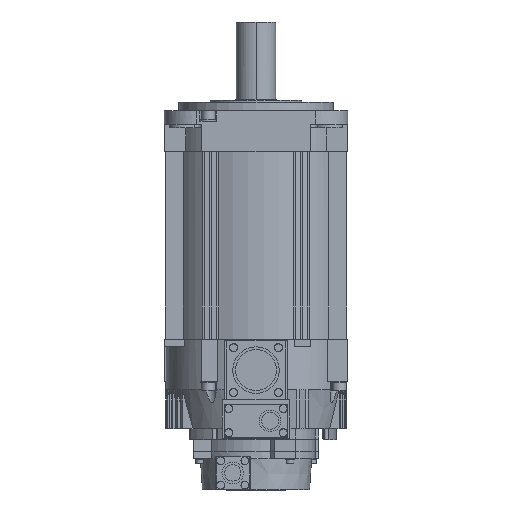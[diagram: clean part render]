
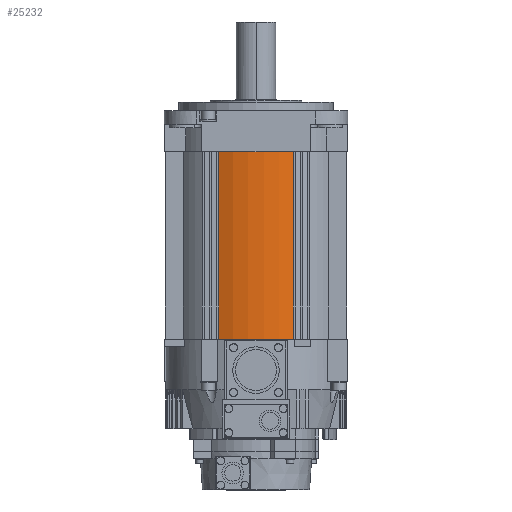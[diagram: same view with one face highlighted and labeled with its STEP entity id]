
A CAD part, front view. The second image highlights one B-rep face of the part: STEP entity #25232.
In plain terms, the highlighted cylindrical face has radius 64.3 mm (diameter 128.6 mm), a partial arc.
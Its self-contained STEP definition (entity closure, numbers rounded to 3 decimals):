
#22118 = CARTESIAN_POINT ( 'NONE',  ( -26.3, -58.675, -29. ) ) ;
#22150 = DIRECTION ( 'NONE',  ( 0., 0., 1. ) ) ;
#22151 = VECTOR ( 'NONE', #22150, 1000. ) ;
#22152 = CARTESIAN_POINT ( 'NONE',  ( -26.3, -58.675, -343.868 ) ) ;
#22153 = LINE ( 'NONE', #22152, #22151 ) ;
#22392 = DIRECTION ( 'NONE',  ( 1., 0., 0. ) ) ;
#22393 = DIRECTION ( 'NONE',  ( 0., 0., 1. ) ) ;
#22394 = CARTESIAN_POINT ( 'NONE',  ( 0., 0., -343.868 ) ) ;
#22395 = AXIS2_PLACEMENT_3D ( 'NONE', #22394, #22393, #22392 ) ;
#22396 = CYLINDRICAL_SURFACE ( 'NONE', #22395, 64.3 ) ;
#22398 = FACE_OUTER_BOUND ( 'NONE', #25111, .T. ) ;
#22840 = CARTESIAN_POINT ( 'NONE',  ( 26.3, -58.675, -29. ) ) ;
#22850 = DIRECTION ( 'NONE',  ( 1., 0., 0. ) ) ;
#22851 = DIRECTION ( 'NONE',  ( 0., 0., 1. ) ) ;
#22852 = CARTESIAN_POINT ( 'NONE',  ( 0., 0., -29. ) ) ;
#22853 = AXIS2_PLACEMENT_3D ( 'NONE', #22852, #22851, #22850 ) ;
#22854 = CIRCLE ( 'NONE', #22853, 64.3 ) ;
#22887 = DIRECTION ( 'NONE',  ( 0., 0., -1. ) ) ;
#22888 = VECTOR ( 'NONE', #22887, 1000. ) ;
#22889 = CARTESIAN_POINT ( 'NONE',  ( 26.3, -58.675, -343.868 ) ) ;
#22890 = LINE ( 'NONE', #22889, #22888 ) ;
#24220 = CARTESIAN_POINT ( 'NONE',  ( -26.3, -58.675, -162. ) ) ;
#24277 = DIRECTION ( 'NONE',  ( 1., 0., 0. ) ) ;
#24278 = DIRECTION ( 'NONE',  ( 0., 0., -1. ) ) ;
#24279 = CARTESIAN_POINT ( 'NONE',  ( 0., 0., -162. ) ) ;
#24280 = AXIS2_PLACEMENT_3D ( 'NONE', #24279, #24278, #24277 ) ;
#24281 = CIRCLE ( 'NONE', #24280, 64.3 ) ;
#24324 = CARTESIAN_POINT ( 'NONE',  ( 26.3, -58.675, -162. ) ) ;
#25063 = ORIENTED_EDGE ( 'NONE', *, *, #25450, .F. ) ;
#25076 = VERTEX_POINT ( 'NONE', #22118 ) ;
#25077 = ORIENTED_EDGE ( 'NONE', *, *, #26197, .F. ) ;
#25099 = ORIENTED_EDGE ( 'NONE', *, *, #25107, .F. ) ;
#25107 = EDGE_CURVE ( 'NONE', #26192, #25076, #22153, .T. ) ;
#25111 = EDGE_LOOP ( 'NONE', ( #25099, #25077, #25063, #25383 ) ) ;
#25232 = ADVANCED_FACE ( 'NONE', ( #22398 ), #22396, .T. ) ;
#25383 = ORIENTED_EDGE ( 'NONE', *, *, #25435, .F. ) ;
#25435 = EDGE_CURVE ( 'NONE', #25076, #25443, #22854, .T. ) ;
#25443 = VERTEX_POINT ( 'NONE', #22840 ) ;
#25450 = EDGE_CURVE ( 'NONE', #25443, #26251, #22890, .T. ) ;
#26192 = VERTEX_POINT ( 'NONE', #24220 ) ;
#26197 = EDGE_CURVE ( 'NONE', #26251, #26192, #24281, .T. ) ;
#26251 = VERTEX_POINT ( 'NONE', #24324 ) ;
